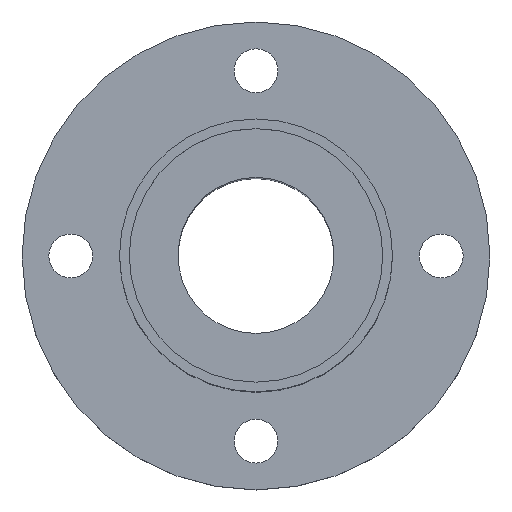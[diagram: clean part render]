
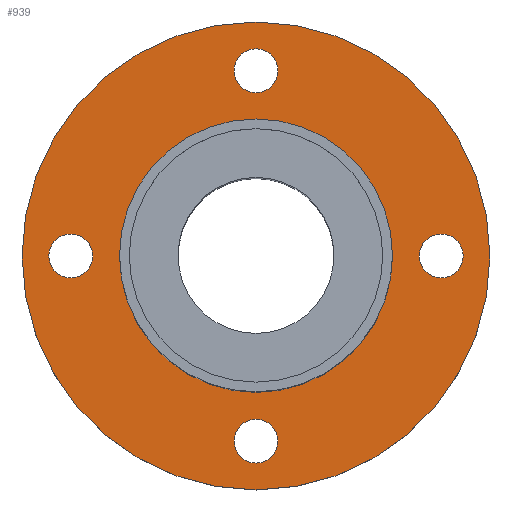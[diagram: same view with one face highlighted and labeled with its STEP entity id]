
A CAD part, top view. The second image highlights one B-rep face of the part: STEP entity #939.
In plain terms, the highlighted planar face has unit normal (0, 0, 1).
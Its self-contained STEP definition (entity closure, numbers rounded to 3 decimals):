
#49=CARTESIAN_POINT('',(-16.799,9.056,38.0));
#50=VERTEX_POINT('',#49);
#59=CARTESIAN_POINT('',(11.201,9.056,38.0));
#60=VERTEX_POINT('',#59);
#61=CARTESIAN_POINT('',(-2.799,9.056,38.0));
#62=DIRECTION('',(0.0,0.0,1.0));
#63=DIRECTION('',(-1.0,0.0,0.0));
#64=AXIS2_PLACEMENT_3D('',#61,#62,#63);
#65=CIRCLE('',#64,14.);
#66=EDGE_CURVE('',#50,#60,#65,.T.);
#259=CARTESIAN_POINT('',(-26.799,9.056,38.0));
#260=VERTEX_POINT('',#259);
#269=CARTESIAN_POINT('',(21.201,9.056,38.0));
#270=VERTEX_POINT('',#269);
#271=CARTESIAN_POINT('',(-2.799,9.056,38.0));
#272=DIRECTION('',(0.0,0.0,-1.0));
#273=DIRECTION('',(-1.0,0.0,0.0));
#274=AXIS2_PLACEMENT_3D('',#271,#272,#273);
#275=CIRCLE('',#274,24.);
#276=EDGE_CURVE('',#260,#270,#275,.T.);
#301=CARTESIAN_POINT('',(18.451,9.056,38.));
#302=VERTEX_POINT('',#301);
#311=CARTESIAN_POINT('',(13.951,9.056,38.));
#312=VERTEX_POINT('',#311);
#313=CARTESIAN_POINT('',(16.201,9.056,38.));
#314=DIRECTION('',(0.0,0.0,-1.0));
#315=DIRECTION('',(1.0,0.0,0.0));
#316=AXIS2_PLACEMENT_3D('',#313,#314,#315);
#317=CIRCLE('',#316,2.25);
#318=EDGE_CURVE('',#312,#302,#317,.T.);
#385=CARTESIAN_POINT('',(-2.799,-12.194,38.));
#386=VERTEX_POINT('',#385);
#395=CARTESIAN_POINT('',(-2.799,-7.694,38.));
#396=VERTEX_POINT('',#395);
#397=CARTESIAN_POINT('',(-2.799,-9.944,38.));
#398=DIRECTION('',(0.0,0.0,-1.0));
#399=DIRECTION('',(0.0,-1.0,0.0));
#400=AXIS2_PLACEMENT_3D('',#397,#398,#399);
#401=CIRCLE('',#400,2.25);
#402=EDGE_CURVE('',#396,#386,#401,.T.);
#469=CARTESIAN_POINT('',(-24.049,9.056,38.));
#470=VERTEX_POINT('',#469);
#479=CARTESIAN_POINT('',(-19.549,9.056,38.));
#480=VERTEX_POINT('',#479);
#481=CARTESIAN_POINT('',(-21.799,9.056,38.));
#482=DIRECTION('',(0.0,0.0,-1.0));
#483=DIRECTION('',(-1.0,0.0,0.0));
#484=AXIS2_PLACEMENT_3D('',#481,#482,#483);
#485=CIRCLE('',#484,2.25);
#486=EDGE_CURVE('',#480,#470,#485,.T.);
#553=CARTESIAN_POINT('',(-2.799,30.306,38.));
#554=VERTEX_POINT('',#553);
#563=CARTESIAN_POINT('',(-2.799,25.806,38.));
#564=VERTEX_POINT('',#563);
#565=CARTESIAN_POINT('',(-2.799,28.056,38.));
#566=DIRECTION('',(0.0,0.0,-1.0));
#567=DIRECTION('',(0.0,1.0,0.0));
#568=AXIS2_PLACEMENT_3D('',#565,#566,#567);
#569=CIRCLE('',#568,2.25);
#570=EDGE_CURVE('',#564,#554,#569,.T.);
#684=CARTESIAN_POINT('',(-2.799,28.056,38.));
#685=DIRECTION('',(0.0,0.0,-1.0));
#686=DIRECTION('',(0.0,1.0,0.0));
#687=AXIS2_PLACEMENT_3D('',#684,#685,#686);
#688=CIRCLE('',#687,2.25);
#689=EDGE_CURVE('',#554,#564,#688,.T.);
#746=CARTESIAN_POINT('',(-21.799,9.056,38.));
#747=DIRECTION('',(0.0,0.0,-1.0));
#748=DIRECTION('',(-1.0,0.0,0.0));
#749=AXIS2_PLACEMENT_3D('',#746,#747,#748);
#750=CIRCLE('',#749,2.25);
#751=EDGE_CURVE('',#470,#480,#750,.T.);
#808=CARTESIAN_POINT('',(-2.799,-9.944,38.));
#809=DIRECTION('',(0.0,0.0,-1.0));
#810=DIRECTION('',(0.0,-1.0,0.0));
#811=AXIS2_PLACEMENT_3D('',#808,#809,#810);
#812=CIRCLE('',#811,2.25);
#813=EDGE_CURVE('',#386,#396,#812,.T.);
#870=CARTESIAN_POINT('',(16.201,9.056,38.));
#871=DIRECTION('',(0.0,0.0,-1.0));
#872=DIRECTION('',(1.0,0.0,0.0));
#873=AXIS2_PLACEMENT_3D('',#870,#871,#872);
#874=CIRCLE('',#873,2.25);
#875=EDGE_CURVE('',#302,#312,#874,.T.);
#894=CARTESIAN_POINT('',(-2.799,9.056,38.0));
#895=DIRECTION('',(0.0,0.0,-1.0));
#896=DIRECTION('',(-1.0,0.0,0.0));
#897=AXIS2_PLACEMENT_3D('',#894,#895,#896);
#898=CIRCLE('',#897,24.);
#899=EDGE_CURVE('',#270,#260,#898,.T.);
#904=CARTESIAN_POINT('',(-2.799,9.056,38.0));
#905=DIRECTION('',(0.0,0.0,-1.0));
#906=DIRECTION('',(-1.0,0.0,0.0));
#907=AXIS2_PLACEMENT_3D('',#904,#905,#906);
#908=PLANE('',#907);
#909=ORIENTED_EDGE('',*,*,#899,.F.);
#910=ORIENTED_EDGE('',*,*,#276,.F.);
#911=EDGE_LOOP('',(#909,#910));
#912=FACE_OUTER_BOUND('',#911,.T.);
#913=ORIENTED_EDGE('',*,*,#570,.T.);
#914=ORIENTED_EDGE('',*,*,#689,.T.);
#915=EDGE_LOOP('',(#913,#914));
#916=FACE_BOUND('',#915,.T.);
#917=ORIENTED_EDGE('',*,*,#486,.T.);
#918=ORIENTED_EDGE('',*,*,#751,.T.);
#919=EDGE_LOOP('',(#917,#918));
#920=FACE_BOUND('',#919,.T.);
#921=ORIENTED_EDGE('',*,*,#402,.T.);
#922=ORIENTED_EDGE('',*,*,#813,.T.);
#923=EDGE_LOOP('',(#921,#922));
#924=FACE_BOUND('',#923,.T.);
#925=ORIENTED_EDGE('',*,*,#318,.T.);
#926=ORIENTED_EDGE('',*,*,#875,.T.);
#927=EDGE_LOOP('',(#925,#926));
#928=FACE_BOUND('',#927,.T.);
#929=CARTESIAN_POINT('',(-2.799,9.056,38.0));
#930=DIRECTION('',(0.0,0.0,1.0));
#931=DIRECTION('',(-1.0,0.0,0.0));
#932=AXIS2_PLACEMENT_3D('',#929,#930,#931);
#933=CIRCLE('',#932,14.);
#934=EDGE_CURVE('',#60,#50,#933,.T.);
#935=ORIENTED_EDGE('',*,*,#934,.F.);
#936=ORIENTED_EDGE('',*,*,#66,.F.);
#937=EDGE_LOOP('',(#935,#936));
#938=FACE_BOUND('',#937,.T.);
#939=ADVANCED_FACE('',(#912,#916,#920,#924,#928,#938),#908,.F.);
